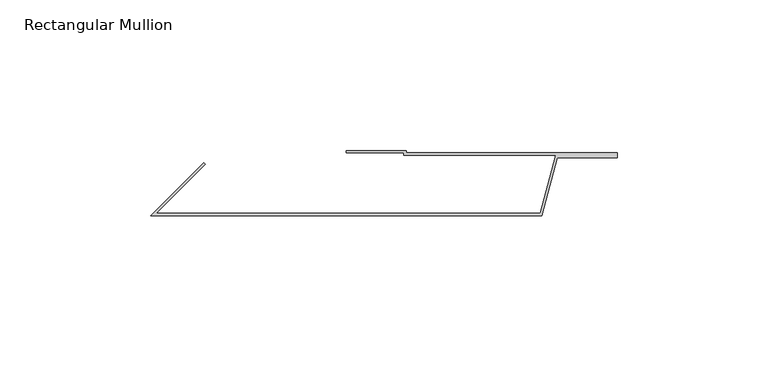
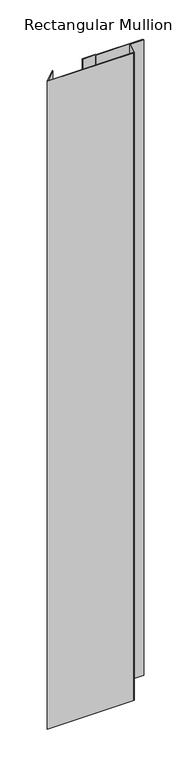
"""IFC4 building model written with IfcOpenShell, lengths in millimetres: member geometry, Rectangular Mullion : TE-V-01_02_Joint flashing."""

import ifcopenshell
import ifcopenshell.guid

model = None  # the IFC model being written
_history = None  # IfcOwnerHistory: only IFC2X3 demands one
_inside = {}  # id of a spatial element -> (the spatial element, [elements in it])
_under = {}  # id of a project, library or spatial element -> (it, [spatial elements below it])
_declared = {}  # id of a project -> (the project, [libraries it declares])
_typed = {}  # id of a type object -> (the type object, [elements of that type])
_made_of = {}  # id of a material, layer set ... -> (it, [elements and type objects made of it])


def new_model(schema):
    """Start an empty IFC model of exactly this schema.

    Asked for "IFC4X3", IfcOpenShell would pick the latest addendum, in which some entities
    have other attributes; the version numbers below select the first issue.
    IFC2X3 requires an IfcOwnerHistory on every rooted entity: one is made here for all.
    """
    global model, _history
    if schema == "IFC4X3":
        model = ifcopenshell.file(schema_version=(4, 3, 0, 0))
    else:
        model = ifcopenshell.file(schema=schema)
    _inside.clear()
    _under.clear()
    _declared.clear()
    _typed.clear()
    _made_of.clear()
    _history = None
    if model.schema == "IFC2X3":
        org = make("IfcOrganization", Name="unknown")
        user = make(
            "IfcPersonAndOrganization",
            ThePerson=make("IfcPerson", FamilyName="unknown"),
            TheOrganization=org,
        )
        app = make(
            "IfcApplication",
            ApplicationDeveloper=org,
            Version="unknown",
            ApplicationFullName="unknown",
            ApplicationIdentifier="unknown",
        )
        _history = make(
            "IfcOwnerHistory",
            OwningUser=user,
            OwningApplication=app,
            ChangeAction="ADDED",
            CreationDate=0,
        )
    return model


def make(cls, **values):
    """One entity of the class cls with the attributes given. An attribute that is None is left unset."""
    return model.create_entity(
        cls, **{name: value for name, value in values.items() if value is not None}
    )


def rooted(cls, **values):
    """An entity with a GlobalId (a new one), such as an element, a storey or a relation."""
    return make(cls, GlobalId=ifcopenshell.guid.new(), OwnerHistory=_history, **values)


def si_unit(unit_type, name, prefix=None):
    """IfcSIUnit, for example si_unit("LENGTHUNIT", "METRE", prefix="MILLI")."""
    return make("IfcSIUnit", UnitType=unit_type, Prefix=prefix, Name=name)


def assignment(units):
    """IfcUnitAssignment: the units of a project."""
    return None if units is None else make("IfcUnitAssignment", Units=units)


def point(xyz):
    """IfcCartesianPoint."""
    return None if xyz is None else make("IfcCartesianPoint", Coordinates=xyz)


def direction(xyz):
    """IfcDirection."""
    return None if xyz is None else make("IfcDirection", DirectionRatios=xyz)


def frame(location, z_axis=None, x_axis=None):
    """IfcAxis2Placement3D, a coordinate frame: its origin and axes. An axis left out is left unset."""
    return make(
        "IfcAxis2Placement3D",
        Location=point(location),
        Axis=direction(z_axis),
        RefDirection=direction(x_axis),
    )


def origin():
    """The frame at (0, 0, 0) with its axes left unset."""
    return frame((0.0, 0.0, 0.0))


def place(relative_to, where):
    """IfcLocalPlacement: puts the frame where relative to a parent placement (None: the world)."""
    return make(
        "IfcLocalPlacement", PlacementRelTo=relative_to, RelativePlacement=where
    )


def context(
    kind, dimensions, precision=None, world=None, true_north=None, identifier=None
):
    """IfcGeometricRepresentationContext, for example the 3D "Model" context."""
    return make(
        "IfcGeometricRepresentationContext",
        ContextIdentifier=identifier,
        ContextType=kind,
        CoordinateSpaceDimension=dimensions,
        Precision=precision,
        WorldCoordinateSystem=world,
        TrueNorth=true_north,
    )


def project(units=None, contexts=None):
    """IfcProject with its units and contexts."""
    return rooted(
        "IfcProject",
        Name="project",
        RepresentationContexts=contexts,
        UnitsInContext=assignment(units),
    )


def spatial(cls, under=None, at=None, **own):
    """A site, building, storey or space (cls), placed at a placement, below another one or the project."""
    s = rooted(cls, ObjectPlacement=at, **own)
    if under is not None:
        _under.setdefault(under.id(), (under, []))[1].append(s)
    return s


def faces_of(points, faces, orient=None, outer=None):
    """IfcFace entities. A face is a list of loops; a loop is a list of indices into points, from 0.

    orient and outer hold one flag for each loop. By default every Orientation is true, the
    first loop of a face is its IfcFaceOuterBound and the others are IfcFaceBound.
    """
    made = []
    for i, loops in enumerate(faces):
        bounds = []
        for j, loop in enumerate(loops):
            is_outer = j == 0 if outer is None else outer[i][j]
            bounds.append(
                make(
                    "IfcFaceOuterBound" if is_outer else "IfcFaceBound",
                    Bound=make("IfcPolyLoop", Polygon=[points[k] for k in loop]),
                    Orientation=True if orient is None else orient[i][j],
                )
            )
        made.append(make("IfcFace", Bounds=bounds))
    return made


def faceted_brep(points, faces, orient=None, outer=None, voids=None):
    """IfcFacetedBrep: a solid bounded by flat faces; with voids (closed shells), ...WithVoids."""
    shared = [point(p) for p in points]
    hull = make("IfcClosedShell", CfsFaces=faces_of(shared, faces, orient, outer))
    if voids is None:
        return make("IfcFacetedBrep", Outer=hull)
    return make(
        "IfcFacetedBrepWithVoids",
        Outer=hull,
        Voids=[
            make(cls, CfsFaces=faces_of(shared, fs, o, b)) for cls, fs, o, b in voids
        ],
    )


def shape(context_of_items, identifier, shape_type, items):
    """IfcShapeRepresentation: the items that make up one representation, for example the "Body"."""
    return make(
        "IfcShapeRepresentation",
        ContextOfItems=context_of_items,
        RepresentationIdentifier=identifier,
        RepresentationType=shape_type,
        Items=items,
    )


def source(mapping_origin, context_of_items, identifier, shape_type, items):
    """IfcRepresentationMap: a shape defined once, which mapped items show again and again."""
    return make(
        "IfcRepresentationMap",
        MappingOrigin=mapping_origin,
        MappedRepresentation=shape(context_of_items, identifier, shape_type, items),
    )


def transform(
    local_origin,
    x_axis=None,
    y_axis=None,
    z_axis=None,
    scale=None,
    scale2=None,
    scale3=None,
    uniform=True,
):
    """IfcCartesianTransformationOperator3D, or its non-uniform kind. x_axis, y_axis, z_axis: its Axis1, 2, 3."""
    if uniform:
        return make(
            "IfcCartesianTransformationOperator3D",
            Axis1=direction(x_axis),
            Axis2=direction(y_axis),
            LocalOrigin=point(local_origin),
            Scale=scale,
            Axis3=direction(z_axis),
        )
    return make(
        "IfcCartesianTransformationOperator3DnonUniform",
        Axis1=direction(x_axis),
        Axis2=direction(y_axis),
        LocalOrigin=point(local_origin),
        Scale=scale,
        Axis3=direction(z_axis),
        Scale2=scale2,
        Scale3=scale3,
    )


def mapped(mapping_source, mapping_target):
    """IfcMappedItem: shows the shape of a source again, moved by a transform."""
    return make(
        "IfcMappedItem", MappingSource=mapping_source, MappingTarget=mapping_target
    )


def made_of(thing, what):
    """Note that an element or type object is made of a material, layer set ...; save() writes the relation."""
    if what is not None:
        _made_of.setdefault(what.id(), (what, []))[1].append(thing)
    return thing


def element(
    cls,
    number,
    at=None,
    inside=None,
    cuts=None,
    type_object=None,
    material=None,
    context=None,
    identifier="Body",
    shape_type=None,
    held_by="IfcProductDefinitionShape",
    body=None,
    shapes=None,
    **own,
):
    """One element of the class cls, such as IfcWall. Its Tag is "e" and its number.

    at: its placement. inside: the storey or other place that contains it. cuts: it is an
    opening in that element (IfcRelVoidsElement). A single representation is given by context,
    identifier, shape_type and body (its items); several are given by shapes. held_by: the class
    of the entity that holds the representations. save() writes the other relations.
    """
    e = rooted(cls, Tag="e%d" % number, ObjectPlacement=at, **own)
    if body is not None:
        shapes = [shape(context, identifier, shape_type, body)]
    if shapes is not None:
        e.Representation = make(held_by, Representations=shapes)
    if inside is not None:
        _inside.setdefault(inside.id(), (inside, []))[1].append(e)
    if cuts is not None:
        rooted(
            "IfcRelVoidsElement", RelatingBuildingElement=cuts, RelatedOpeningElement=e
        )
    if type_object is not None:
        _typed.setdefault(type_object.id(), (type_object, []))[1].append(e)
    return made_of(e, material)


def aggregate(whole, parts):
    """IfcRelAggregates: a whole, such as a stair, and the parts it consists of."""
    return rooted("IfcRelAggregates", RelatingObject=whole, RelatedObjects=parts)


def save(model, path):
    """Write the relations noted so far, then the file.

    IfcRelAggregates (storeys below a building ...), IfcRelContainedInSpatialStructure (elements
    in a storey), IfcRelDefinesByType, IfcRelAssociatesMaterial and IfcRelDeclares: one each for
    every whole, place, type object, material and project.
    """
    for whole, parts in _under.values():
        aggregate(whole, parts)
    for where, things in _inside.values():
        rooted(
            "IfcRelContainedInSpatialStructure",
            RelatedElements=things,
            RelatingStructure=where,
        )
    for kind, things in _typed.values():
        rooted("IfcRelDefinesByType", RelatedObjects=things, RelatingType=kind)
    for what, things in _made_of.values():
        rooted("IfcRelAssociatesMaterial", RelatedObjects=things, RelatingMaterial=what)
    for by, libraries in _declared.values():
        rooted("IfcRelDeclares", RelatingContext=by, RelatedDefinitions=libraries)
    model.write(path)


def rectangular_mullion_ffd1ddda(model_context):
    return source(origin(), model_context, "Body", "Brep", [
        faceted_brep([(0.0, 0.0, 0.0), (-20.0, 0.0, 0.0), (-20.0, -0.8, 0.0), (-0.8, -0.8, 0.0), (-0.8, -1.6, 0.0), (49.5625193, -1.6, 0.0), (44.3861384, -20.9185165, 0.0), (-83.0686292, -20.9185165, 0.0), (-66.756645, -4.6065324, 0.0), (-67.3223305, -4.040847, 0.0), (-85.0, -21.7185165, 0.0), (45.0, -21.7185165, 0.0), (50.1763809, -2.4, 0.0), (70.1186468, -2.4, 0.0), (70.1186468, -0.8, 0.0), (0.0, -0.8, 0.0), (0.0, 0.0, -1000.0000003), (-20.0, 0.0, -1000.0000003), (-20.0, -0.8, -1000.8000003), (-0.8, -0.8, -1000.8000003), (-0.8, -1.6, -1001.6000003), (49.5625193, -1.6, -1001.6000003), (44.3861384, -20.9185165, -1020.9185168), (-83.0686292, -20.9185165, -1020.9185168), (-66.756645, -4.6065324, -1004.6065327), (-67.3223305, -4.040847, -1004.0408473), (-85.0, -21.7185165, -1021.7185168), (45.0, -21.7185165, -1021.7185168), (50.1763809, -2.4, -1002.4000003), (70.1186468, -2.4, -1002.4000003), (70.1186468, -0.8, -1000.8000003), (0.0, -0.8, -1000.8000003)], [[[0, 1, 2, 3, 4, 5, 6, 7, 8, 9, 10, 11, 12, 13, 14, 15]], [[1, 0, 16, 17]], [[2, 1, 17, 18]], [[3, 2, 18, 19]], [[4, 3, 19, 20]], [[5, 4, 20, 21]], [[6, 5, 21, 22]], [[7, 6, 22, 23]], [[8, 7, 23, 24]], [[9, 8, 24, 25]], [[10, 9, 25, 26]], [[11, 10, 26, 27]], [[12, 11, 27, 28]], [[13, 12, 28, 29]], [[14, 13, 29, 30]], [[15, 14, 30, 31]], [[0, 15, 31, 16]], [[16, 31, 30, 29, 28, 27, 26, 25, 24, 23, 22, 21, 20, 19, 18, 17]]]),
    ])


if __name__ == "__main__":
    model = new_model("IFC4")
    model_context = context("Model", 3, world=origin())
    ifc_project = project(units=[si_unit("LENGTHUNIT", "METRE", prefix="MILLI")], contexts=[model_context])
    site = spatial("IfcSite", under=ifc_project)
    building = spatial("IfcBuilding", under=site)
    placement = place(None, origin())
    rectangular_mullion_shape = rectangular_mullion_ffd1ddda(model_context)
    element("IfcMember", 1, ObjectType="Rectangular Mullion : TE-V-01_02_Joint flashing", at=placement, inside=building, context=model_context, shape_type="MappedRepresentation", body=[
        mapped(rectangular_mullion_shape, transform((0.0, 0.0, 0.0), x_axis=(1.0, 0.0, 0.0), y_axis=(0.0, 1.0, 0.0), z_axis=(0.0, 0.0, 1.0))),
    ])
    save(model, "model.ifc")
